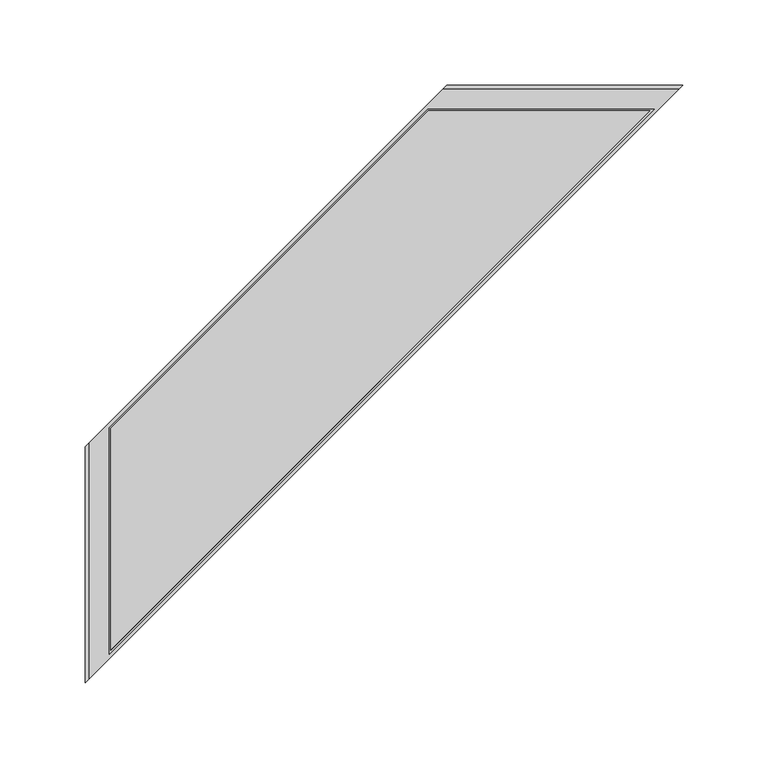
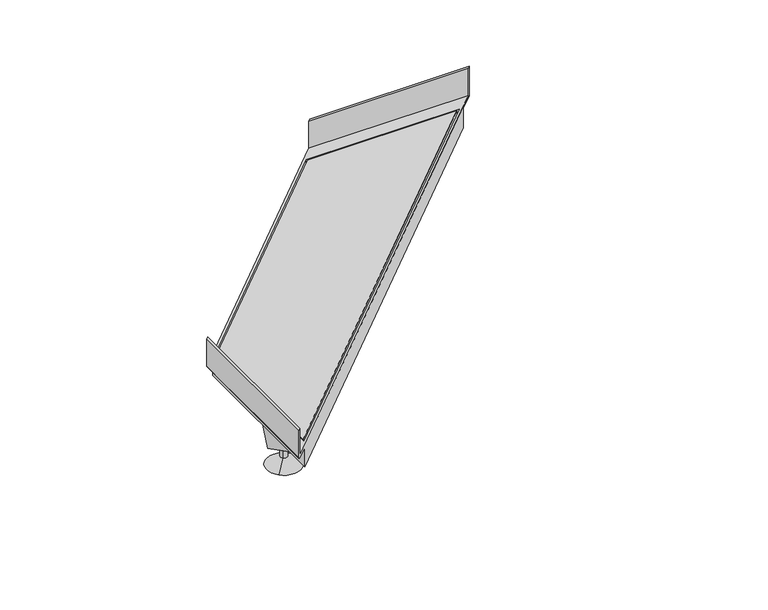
"""IFC4 building model written with IfcOpenShell, lengths in millimetres: sanitary terminal geometry, NLRS_PF_52_UN_Multi Trapezium uitloop_Easydrain : Multi Trapezium horizontal outlet low 40mm."""

import ifcopenshell
import ifcopenshell.guid

model = None  # the IFC model being written
_history = None  # IfcOwnerHistory: only IFC2X3 demands one
_inside = {}  # id of a spatial element -> (the spatial element, [elements in it])
_under = {}  # id of a project, library or spatial element -> (it, [spatial elements below it])
_declared = {}  # id of a project -> (the project, [libraries it declares])
_typed = {}  # id of a type object -> (the type object, [elements of that type])
_made_of = {}  # id of a material, layer set ... -> (it, [elements and type objects made of it])


def new_model(schema):
    """Start an empty IFC model of exactly this schema.

    Asked for "IFC4X3", IfcOpenShell would pick the latest addendum, in which some entities
    have other attributes; the version numbers below select the first issue.
    IFC2X3 requires an IfcOwnerHistory on every rooted entity: one is made here for all.
    """
    global model, _history
    if schema == "IFC4X3":
        model = ifcopenshell.file(schema_version=(4, 3, 0, 0))
    else:
        model = ifcopenshell.file(schema=schema)
    _inside.clear()
    _under.clear()
    _declared.clear()
    _typed.clear()
    _made_of.clear()
    _history = None
    if model.schema == "IFC2X3":
        org = make("IfcOrganization", Name="unknown")
        user = make(
            "IfcPersonAndOrganization",
            ThePerson=make("IfcPerson", FamilyName="unknown"),
            TheOrganization=org,
        )
        app = make(
            "IfcApplication",
            ApplicationDeveloper=org,
            Version="unknown",
            ApplicationFullName="unknown",
            ApplicationIdentifier="unknown",
        )
        _history = make(
            "IfcOwnerHistory",
            OwningUser=user,
            OwningApplication=app,
            ChangeAction="ADDED",
            CreationDate=0,
        )
    return model


def make(cls, **values):
    """One entity of the class cls with the attributes given. An attribute that is None is left unset."""
    return model.create_entity(
        cls, **{name: value for name, value in values.items() if value is not None}
    )


def rooted(cls, **values):
    """An entity with a GlobalId (a new one), such as an element, a storey or a relation."""
    return make(cls, GlobalId=ifcopenshell.guid.new(), OwnerHistory=_history, **values)


def si_unit(unit_type, name, prefix=None):
    """IfcSIUnit, for example si_unit("LENGTHUNIT", "METRE", prefix="MILLI")."""
    return make("IfcSIUnit", UnitType=unit_type, Prefix=prefix, Name=name)


def assignment(units):
    """IfcUnitAssignment: the units of a project."""
    return None if units is None else make("IfcUnitAssignment", Units=units)


def point(xyz):
    """IfcCartesianPoint."""
    return None if xyz is None else make("IfcCartesianPoint", Coordinates=xyz)


def direction(xyz):
    """IfcDirection."""
    return None if xyz is None else make("IfcDirection", DirectionRatios=xyz)


def frame(location, z_axis=None, x_axis=None):
    """IfcAxis2Placement3D, a coordinate frame: its origin and axes. An axis left out is left unset."""
    return make(
        "IfcAxis2Placement3D",
        Location=point(location),
        Axis=direction(z_axis),
        RefDirection=direction(x_axis),
    )


def origin():
    """The frame at (0, 0, 0) with its axes left unset."""
    return frame((0.0, 0.0, 0.0))


def place(relative_to, where):
    """IfcLocalPlacement: puts the frame where relative to a parent placement (None: the world)."""
    return make(
        "IfcLocalPlacement", PlacementRelTo=relative_to, RelativePlacement=where
    )


def context(
    kind, dimensions, precision=None, world=None, true_north=None, identifier=None
):
    """IfcGeometricRepresentationContext, for example the 3D "Model" context."""
    return make(
        "IfcGeometricRepresentationContext",
        ContextIdentifier=identifier,
        ContextType=kind,
        CoordinateSpaceDimension=dimensions,
        Precision=precision,
        WorldCoordinateSystem=world,
        TrueNorth=true_north,
    )


def project(units=None, contexts=None):
    """IfcProject with its units and contexts."""
    return rooted(
        "IfcProject",
        Name="project",
        RepresentationContexts=contexts,
        UnitsInContext=assignment(units),
    )


def spatial(cls, under=None, at=None, **own):
    """A site, building, storey or space (cls), placed at a placement, below another one or the project."""
    s = rooted(cls, ObjectPlacement=at, **own)
    if under is not None:
        _under.setdefault(under.id(), (under, []))[1].append(s)
    return s


def polyline(points):
    """IfcPolyline through the points."""
    return make("IfcPolyline", Points=[point(p) for p in points])


def circle_curve(where, radius):
    """IfcCircle in the frame where."""
    return make("IfcCircle", Position=where, Radius=radius)


def ellipse_curve(where, semi_axis1, semi_axis2):
    """IfcEllipse in the frame where."""
    return make(
        "IfcEllipse", Position=where, SemiAxis1=semi_axis1, SemiAxis2=semi_axis2
    )


def faces_of(points, faces, orient=None, outer=None):
    """IfcFace entities. A face is a list of loops; a loop is a list of indices into points, from 0.

    orient and outer hold one flag for each loop. By default every Orientation is true, the
    first loop of a face is its IfcFaceOuterBound and the others are IfcFaceBound.
    """
    made = []
    for i, loops in enumerate(faces):
        bounds = []
        for j, loop in enumerate(loops):
            is_outer = j == 0 if outer is None else outer[i][j]
            bounds.append(
                make(
                    "IfcFaceOuterBound" if is_outer else "IfcFaceBound",
                    Bound=make("IfcPolyLoop", Polygon=[points[k] for k in loop]),
                    Orientation=True if orient is None else orient[i][j],
                )
            )
        made.append(make("IfcFace", Bounds=bounds))
    return made


def faceted_brep(points, faces, orient=None, outer=None, voids=None):
    """IfcFacetedBrep: a solid bounded by flat faces; with voids (closed shells), ...WithVoids."""
    shared = [point(p) for p in points]
    hull = make("IfcClosedShell", CfsFaces=faces_of(shared, faces, orient, outer))
    if voids is None:
        return make("IfcFacetedBrep", Outer=hull)
    return make(
        "IfcFacetedBrepWithVoids",
        Outer=hull,
        Voids=[
            make(cls, CfsFaces=faces_of(shared, fs, o, b)) for cls, fs, o, b in voids
        ],
    )


def shape(context_of_items, identifier, shape_type, items):
    """IfcShapeRepresentation: the items that make up one representation, for example the "Body"."""
    return make(
        "IfcShapeRepresentation",
        ContextOfItems=context_of_items,
        RepresentationIdentifier=identifier,
        RepresentationType=shape_type,
        Items=items,
    )


def source(mapping_origin, context_of_items, identifier, shape_type, items):
    """IfcRepresentationMap: a shape defined once, which mapped items show again and again."""
    return make(
        "IfcRepresentationMap",
        MappingOrigin=mapping_origin,
        MappedRepresentation=shape(context_of_items, identifier, shape_type, items),
    )


def transform(
    local_origin,
    x_axis=None,
    y_axis=None,
    z_axis=None,
    scale=None,
    scale2=None,
    scale3=None,
    uniform=True,
):
    """IfcCartesianTransformationOperator3D, or its non-uniform kind. x_axis, y_axis, z_axis: its Axis1, 2, 3."""
    if uniform:
        return make(
            "IfcCartesianTransformationOperator3D",
            Axis1=direction(x_axis),
            Axis2=direction(y_axis),
            LocalOrigin=point(local_origin),
            Scale=scale,
            Axis3=direction(z_axis),
        )
    return make(
        "IfcCartesianTransformationOperator3DnonUniform",
        Axis1=direction(x_axis),
        Axis2=direction(y_axis),
        LocalOrigin=point(local_origin),
        Scale=scale,
        Axis3=direction(z_axis),
        Scale2=scale2,
        Scale3=scale3,
    )


def mapped(mapping_source, mapping_target):
    """IfcMappedItem: shows the shape of a source again, moved by a transform."""
    return make(
        "IfcMappedItem", MappingSource=mapping_source, MappingTarget=mapping_target
    )


def made_of(thing, what):
    """Note that an element or type object is made of a material, layer set ...; save() writes the relation."""
    if what is not None:
        _made_of.setdefault(what.id(), (what, []))[1].append(thing)
    return thing


def element(
    cls,
    number,
    at=None,
    inside=None,
    cuts=None,
    type_object=None,
    material=None,
    context=None,
    identifier="Body",
    shape_type=None,
    held_by="IfcProductDefinitionShape",
    body=None,
    shapes=None,
    **own,
):
    """One element of the class cls, such as IfcWall. Its Tag is "e" and its number.

    at: its placement. inside: the storey or other place that contains it. cuts: it is an
    opening in that element (IfcRelVoidsElement). A single representation is given by context,
    identifier, shape_type and body (its items); several are given by shapes. held_by: the class
    of the entity that holds the representations. save() writes the other relations.
    """
    e = rooted(cls, Tag="e%d" % number, ObjectPlacement=at, **own)
    if body is not None:
        shapes = [shape(context, identifier, shape_type, body)]
    if shapes is not None:
        e.Representation = make(held_by, Representations=shapes)
    if inside is not None:
        _inside.setdefault(inside.id(), (inside, []))[1].append(e)
    if cuts is not None:
        rooted(
            "IfcRelVoidsElement", RelatingBuildingElement=cuts, RelatedOpeningElement=e
        )
    if type_object is not None:
        _typed.setdefault(type_object.id(), (type_object, []))[1].append(e)
    return made_of(e, material)


def aggregate(whole, parts):
    """IfcRelAggregates: a whole, such as a stair, and the parts it consists of."""
    return rooted("IfcRelAggregates", RelatingObject=whole, RelatedObjects=parts)


def save(model, path):
    """Write the relations noted so far, then the file.

    IfcRelAggregates (storeys below a building ...), IfcRelContainedInSpatialStructure (elements
    in a storey), IfcRelDefinesByType, IfcRelAssociatesMaterial and IfcRelDeclares: one each for
    every whole, place, type object, material and project.
    """
    for whole, parts in _under.values():
        aggregate(whole, parts)
    for where, things in _inside.values():
        rooted(
            "IfcRelContainedInSpatialStructure",
            RelatedElements=things,
            RelatingStructure=where,
        )
    for kind, things in _typed.values():
        rooted("IfcRelDefinesByType", RelatedObjects=things, RelatingType=kind)
    for what, things in _made_of.values():
        rooted("IfcRelAssociatesMaterial", RelatedObjects=things, RelatingMaterial=what)
    for by, libraries in _declared.values():
        rooted("IfcRelDeclares", RelatingContext=by, RelatedDefinitions=libraries)
    model.write(path)


def plane_surface(at):
    """IfcPlane: the flat surface through the origin of the frame at, square to its z axis."""
    return make("IfcPlane", Position=at)


def cylinder_surface(at, radius):
    """IfcCylindricalSurface: all points at the distance radius from the z axis of the frame at."""
    return make("IfcCylindricalSurface", Position=at, Radius=radius)


def revolved_surface(curve, axis_point, axis_direction):
    """IfcSurfaceOfRevolution: the curve turned about the line through axis_point along axis_direction."""
    return make(
        "IfcSurfaceOfRevolution",
        SweptCurve=make("IfcArbitraryOpenProfileDef", ProfileType="CURVE", Curve=curve),
        AxisPosition=make("IfcAxis1Placement", Location=point(axis_point), Axis=direction(axis_direction)),
    )


def advanced_brep(points, edges, surfaces, faces):
    """IfcAdvancedBrep: a solid bounded by faces that lie on surfaces and meet in shared edges.

    An edge is (start, end): straight between two places in points (the first is 0);
    or (start, end, curve); or (start, end, curve, False) where it runs against its curve.
    A face is (place in surfaces, loops), or (place, loops, False) where it looks against
    its surface's normal. A loop lists edges by number (the first is 1), with a minus sign
    where the edge is run from its end to its start. The first loop is the outer one.
    """
    corners = [point(p) for p in points]
    vertices = [make("IfcVertexPoint", VertexGeometry=c) for c in corners]
    made = []
    for start, end, *more in edges:
        made.append(
            make(
                "IfcEdgeCurve",
                EdgeStart=vertices[start],
                EdgeEnd=vertices[end],
                EdgeGeometry=more[0] if more else make("IfcPolyline", Points=[corners[start], corners[end]]),
                SameSense=more[1] if len(more) > 1 else True,
            )
        )
    hull = []
    for where, loops, *sense in faces:
        bounds = []
        for j, loop in enumerate(loops):
            ring = [make("IfcOrientedEdge", EdgeElement=made[abs(k) - 1], Orientation=k > 0) for k in loop]
            bounds.append(
                make(
                    "IfcFaceOuterBound" if j == 0 else "IfcFaceBound",
                    Bound=make("IfcEdgeLoop", EdgeList=ring),
                    Orientation=True,
                )
            )
        hull.append(make("IfcAdvancedFace", Bounds=bounds, FaceSurface=surfaces[where], SameSense=sense[0] if sense else True))
    return make("IfcAdvancedBrep", Outer=make("IfcClosedShell", CfsFaces=hull))


def sanitary_terminal_3431c1f4(model_context):
    return source(origin(), model_context, "Body", "SolidModel", [
        advanced_brep(
        [(252.4371209, -44.5477272, -60.0), (254.5584412, -42.4264069, -60.0), (256.6797616, -40.3050865, -60.0), (252.4371209, -44.5477272, -71.5), (256.6797616, -40.3050865, -71.5), (243.9518395, -53.0330086, -79.0), (265.1650429, -31.8198052, -79.0), (254.5584412, -42.4264069, -79.0)],
        [
            (0, 1),
            (1, 2),
            (2, 0, circle_curve(frame((254.5584412, -42.4264069, -60.0), z_axis=(0.0, 0.0, 1.0), x_axis=(0.7071067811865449, 0.70710678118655, 0.0)), 3.0)),
            (0, 2, circle_curve(frame((254.5584412, -42.4264069, -60.0), z_axis=(0.0, 0.0, 1.0), x_axis=(0.7071067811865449, 0.70710678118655, 0.0)), 3.0)),
            (3, 0),
            (2, 4),
            (4, 3, circle_curve(frame((254.5584412, -42.4264069, -71.5), z_axis=(0.0, 0.0, 1.0), x_axis=(0.7071067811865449, 0.70710678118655, 0.0)), 3.0)),
            (3, 4, circle_curve(frame((254.5584412, -42.4264069, -71.5), z_axis=(0.0, 0.0, 1.0), x_axis=(0.7071067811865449, 0.70710678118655, 0.0)), 3.0)),
            (5, 3),
            (4, 6),
            (6, 5, circle_curve(frame((254.5584412, -42.4264069, -79.0), z_axis=(0.0, 0.0, 1.0), x_axis=(0.7071067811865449, 0.70710678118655, 0.0)), 15.0)),
            (5, 6, circle_curve(frame((254.5584412, -42.4264069, -79.0), z_axis=(0.0, 0.0, 1.0), x_axis=(0.7071067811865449, 0.70710678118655, 0.0)), 15.0)),
            (7, 5),
            (6, 7),
        ],
        [
            plane_surface(frame((254.5584412, -42.4264069, -60.0), z_axis=(0.0, 0.0, 1.0), x_axis=(0.707106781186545, 0.7071067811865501, 0.0))),
            cylinder_surface(frame((254.5584412, -42.4264069, -87.1782032), z_axis=(0.0, 0.0, -1.0), x_axis=(0.7071067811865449, 0.70710678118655, 0.0)), 3.0),
            revolved_surface(polyline([(256.6797616, -40.3050865, -71.5), (265.1650429, -31.8198052, -79.0)]), (254.5584412, -42.4264069, -87.1782032), (0.0, 0.0, -1.0)),
            plane_surface(frame((254.5584412, -42.4264069, -79.0), z_axis=(0.0, 0.0, -1.0), x_axis=(0.707106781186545, 0.7071067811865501, 0.0))),
        ],
        [
            (0, [[1, 2, 3]]),
            (0, [[-2, -1, 4]]),
            (1, [[5, -3, 6, 7]]),
            (1, [[-6, -4, -5, 8]]),
            (2, [[9, -7, 10, 11]]),
            (2, [[-10, -8, -9, 12]]),
            (3, [[13, -11, 14]]),
            (3, [[-14, -12, -13]]),
        ],
    ),
        faceted_brep([(254.5584412, -28.2842712, -60.0), (268.7005769, -42.4264069, -60.0), (254.5584412, -56.5685425, -60.0), (240.4163056, -42.4264069, -60.0), (254.5584412, -21.2132034, -20.0), (233.3452378, -42.4264069, -20.0), (254.5584412, -63.6396103, -20.0), (275.7716447, -42.4264069, -20.0)], [[[0, 1, 2, 3]], [[4, 5, 6, 7]], [[7, 1, 0, 4]], [[6, 2, 1, 7]], [[5, 3, 2, 6]], [[4, 0, 3, 5]]]),
        advanced_brep(
        [(44.5477272, -252.4371209, -60.0), (40.3050865, -256.6797616, -60.0), (42.4264069, -254.5584412, -60.0), (44.5477272, -252.4371209, -71.5), (40.3050865, -256.6797616, -71.5), (53.0330086, -243.9518395, -79.0), (31.8198052, -265.1650429, -79.0), (42.4264069, -254.5584412, -79.0)],
        [
            (0, 1, circle_curve(frame((42.4264069, -254.5584412, -60.0), z_axis=(0.0, 0.0, 1.0), x_axis=(-0.7071067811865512, -0.7071067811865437, 0.0)), 3.0)),
            (1, 2),
            (2, 0),
            (1, 0, circle_curve(frame((42.4264069, -254.5584412, -60.0), z_axis=(0.0, 0.0, 1.0), x_axis=(-0.7071067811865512, -0.7071067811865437, 0.0)), 3.0)),
            (3, 4, circle_curve(frame((42.4264069, -254.5584412, -71.5), z_axis=(0.0, 0.0, 1.0), x_axis=(-0.7071067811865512, -0.7071067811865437, 0.0)), 3.0)),
            (4, 1),
            (0, 3),
            (4, 3, circle_curve(frame((42.4264069, -254.5584412, -71.5), z_axis=(0.0, 0.0, 1.0), x_axis=(-0.7071067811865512, -0.7071067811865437, 0.0)), 3.0)),
            (5, 6, circle_curve(frame((42.4264069, -254.5584412, -79.0), z_axis=(0.0, 0.0, 1.0), x_axis=(-0.7071067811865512, -0.7071067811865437, 0.0)), 15.0)),
            (6, 4),
            (3, 5),
            (6, 5, circle_curve(frame((42.4264069, -254.5584412, -79.0), z_axis=(0.0, 0.0, 1.0), x_axis=(-0.7071067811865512, -0.7071067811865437, 0.0)), 15.0)),
            (7, 6),
            (5, 7),
        ],
        [
            plane_surface(frame((42.4264069, -254.5584412, -60.0), z_axis=(0.0, 0.0, 1.0000000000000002), x_axis=(-0.7071067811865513, -0.7071067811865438, 0.0))),
            cylinder_surface(frame((42.4264069, -254.5584412, -87.1782032), z_axis=(0.0, 0.0, -1.0), x_axis=(-0.7071067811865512, -0.7071067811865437, 0.0)), 3.0),
            revolved_surface(polyline([(40.3050865, -256.6797616, -71.5), (31.8198052, -265.1650429, -79.0)]), (42.4264069, -254.5584412, -87.1782032), (0.0, 0.0, -1.0)),
            plane_surface(frame((42.4264069, -254.5584412, -79.0), z_axis=(0.0, 0.0, -1.0000000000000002), x_axis=(-0.7071067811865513, -0.7071067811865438, 0.0))),
        ],
        [
            (0, [[1, 2, 3]]),
            (0, [[4, -3, -2]]),
            (1, [[5, 6, -1, 7]]),
            (1, [[8, -7, -4, -6]]),
            (2, [[9, 10, -5, 11]]),
            (2, [[12, -11, -8, -10]]),
            (3, [[13, -9, 14]]),
            (3, [[-14, -12, -13]]),
        ],
    ),
        faceted_brep([(28.2842712, -254.5584412, -60.0), (42.4264069, -240.4163056, -60.0), (56.5685425, -254.5584412, -60.0), (42.4264069, -268.7005769, -60.0), (21.2132034, -254.5584412, -20.0), (42.4264069, -275.7716447, -20.0), (63.6396103, -254.5584412, -20.0), (42.4264069, -233.3452378, -20.0)], [[[0, 1, 2, 3]], [[4, 5, 6, 7]], [[5, 4, 0, 3]], [[6, 5, 3, 2]], [[7, 6, 2, 1]], [[4, 7, 1, 0]]]),
        advanced_brep(
        [(0.0, -212.1320344, 25.0), (0.0, -350.7249635, 25.0), (2.0, -348.7249635, 25.0), (2.0, -210.1320344, 25.0), (350.7249635, 0.0, 25.0), (212.1320344, 0.0, 25.0), (210.1320344, -2.0, 25.0), (348.7249635, -2.0, 25.0), (12.0, -338.7249635, -20.0), (12.0, -200.1320344, -20.0), (200.1320344, -12.0, -20.0), (338.7249635, -12.0, -20.0), (2.0, -210.1320344, 0.0), (210.1320344, -2.0, 0.0), (212.1320344, 0.0, -2.0), (200.1320344, -12.0, -2.0), (12.0, -200.1320344, -2.0), (2.0, -210.1320344, -2.0), (0.0, -212.1320344, 0.0), (0.0, -350.7249635, 0.0), (2.0, -348.7249635, -2.0), (12.0, -338.7249635, -2.0), (338.7249635, -12.0, -2.0), (350.7249635, 0.0, -2.0), (348.7249635, -2.0, 0.0), (2.0, -348.7249635, 0.0), (14.0, -333.8965363, 0.0), (14.0, -200.9604615, 0.0), (200.9604615, -14.0, 0.0), (333.8965363, -14.0, 0.0), (15.0, -201.374675, 0.0), (15.0, -331.4823228, 0.0), (331.4823228, -15.0, 0.0), (201.374675, -15.0, 0.0), (14.0, -333.8965363, -12.0), (14.0, -200.9604615, -12.0), (15.0, -201.374675, -12.0), (15.0, -331.4823228, -12.0), (333.8965363, -14.0, -12.0), (331.4823228, -15.0, -12.0), (200.9604615, -14.0, -12.0), (201.374675, -15.0, -12.0)],
        [
            (0, 1),
            (1, 2),
            (2, 3),
            (3, 0),
            (4, 5),
            (5, 6),
            (6, 7),
            (7, 4),
            (8, 9),
            (9, 10),
            (10, 11),
            (11, 8),
            (3, 12),
            (12, 13),
            (13, 6),
            (5, 14),
            (14, 15),
            (15, 10),
            (9, 16),
            (16, 17),
            (17, 18, ellipse_curve(frame((2.0, -210.1320344, 0.0), z_axis=(-0.707106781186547, 0.7071067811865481, 0.0), x_axis=(0.7071067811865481, 0.7071067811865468, 0.0)), 2.8284271, 2.0)),
            (18, 0),
            (18, 19),
            (19, 1),
            (19, 20, ellipse_curve(frame((2.0, -348.7249635, 0.0), z_axis=(0.707106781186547, -0.7071067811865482, 0.0), x_axis=(0.7071067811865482, 0.7071067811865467, 0.0)), 2.8284271, 2.0)),
            (20, 21),
            (21, 8),
            (11, 22),
            (22, 23),
            (23, 4),
            (7, 24),
            (24, 25),
            (25, 2),
            (23, 14),
            (12, 25),
            (24, 13),
            (26, 27),
            (27, 28),
            (28, 29),
            (29, 26),
            (30, 31),
            (31, 32),
            (32, 33),
            (33, 30),
            (16, 21),
            (20, 17),
            (22, 15),
            (26, 34),
            (34, 35),
            (35, 27),
            (36, 37),
            (37, 31),
            (30, 36),
            (29, 38),
            (38, 34),
            (37, 39),
            (39, 32),
            (28, 40),
            (40, 38),
            (39, 41),
            (41, 33),
            (35, 40),
            (41, 36),
        ],
        [
            plane_surface(frame((0.0, -212.1320344, 25.0), z_axis=(0.0, 0.0, 1.0000000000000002), x_axis=(-0.7071067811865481, -0.707106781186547, 0.0))),
            plane_surface(frame((0.0, -212.1320344, -20.0), z_axis=(0.0, 0.0, -1.0000000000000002), x_axis=(0.7071067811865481, 0.707106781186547, 0.0))),
            plane_surface(frame((212.1320344, 0.0, 25.0), z_axis=(-0.707106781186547, 0.7071067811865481, 0.0), x_axis=(0.0, 0.0, -1.0))),
            plane_surface(frame((0.0, -212.1320344, 25.0), z_axis=(-1.0, 0.0, 0.0), x_axis=(0.0, 0.0, -1.0))),
            plane_surface(frame((0.0, -350.7249635, 25.0), z_axis=(0.707106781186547, -0.7071067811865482, 0.0), x_axis=(0.0, 0.0, -1.0))),
            plane_surface(frame((350.7249635, 0.0, 25.0), z_axis=(0.0, 1.0, 0.0), x_axis=(0.0, 0.0, -1.0))),
            plane_surface(frame((2.0, -210.1320344, 0.0), z_axis=(0.0, 0.0, 1.0), x_axis=(0.0, 1.0, 0.0))),
            plane_surface(frame((2.0, -210.1320344, 25.0), z_axis=(1.0, 0.0, 0.0), x_axis=(0.0, 0.0, -1.0))),
            plane_surface(frame((348.7249635, -2.0, 25.0), z_axis=(0.0, -1.0, 0.0), x_axis=(0.0, 0.0, -1.0))),
            plane_surface(frame((12.0, -712.5909744, -2.0), z_axis=(0.0, 0.0, -1.0), x_axis=(0.0, 1.0, 0.0))),
            plane_surface(frame((12.0, -712.5909744, -20.0), z_axis=(-1.0, 0.0, 0.0), x_axis=(0.0, 1.0, 0.0))),
            plane_surface(frame((712.5909744, 0.0, -2.0), z_axis=(0.0, 0.0, -1.0), x_axis=(-1.0, 0.0, 0.0))),
            plane_surface(frame((712.5909744, -12.0, -2.0), z_axis=(0.0, 1.0, 0.0), x_axis=(-1.0, 0.0, 0.0))),
            plane_surface(frame((14.0, -200.9604615, -12.0), z_axis=(1.0, 0.0, 0.0), x_axis=(0.0, -1.0, 0.0))),
            plane_surface(frame((15.0, -201.374675, 0.0), z_axis=(-1.0, 0.0, 0.0), x_axis=(0.0, -1.0, 0.0))),
            plane_surface(frame((14.0, -333.8965363, -12.0), z_axis=(-0.707106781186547, 0.7071067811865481, 0.0), x_axis=(0.7071067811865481, 0.707106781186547, 0.0))),
            plane_surface(frame((15.0, -331.4823228, 0.0), z_axis=(0.707106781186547, -0.7071067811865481, 0.0), x_axis=(0.7071067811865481, 0.707106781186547, 0.0))),
            plane_surface(frame((333.8965363, -14.0, -12.0), z_axis=(0.0, -1.0, 0.0), x_axis=(-1.0, 0.0, 0.0))),
            plane_surface(frame((331.4823228, -15.0, 0.0), z_axis=(0.0, 1.0, 0.0), x_axis=(-1.0, 0.0, 0.0))),
            plane_surface(frame((200.9604615, -14.0, -12.0), z_axis=(0.7071067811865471, -0.7071067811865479, 0.0), x_axis=(-0.7071067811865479, -0.7071067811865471, 0.0))),
            plane_surface(frame((201.374675, -15.0, 0.0), z_axis=(-0.7071067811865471, 0.707106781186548, 0.0), x_axis=(-0.707106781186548, -0.7071067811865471, 0.0))),
            plane_surface(frame((201.374675, -15.0, -12.0), z_axis=(0.0, 0.0, 1.0), x_axis=(-0.707106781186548, -0.707106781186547, 0.0))),
            cylinder_surface(frame((2.0, 0.0, 0.0), z_axis=(0.0, 1.0, 0.0), x_axis=(1.0, 0.0, 0.0)), 2.0),
        ],
        [
            (0, [[1, 2, 3, 4]]),
            (0, [[5, 6, 7, 8]]),
            (1, [[9, 10, 11, 12]]),
            (2, [[-4, 13, 14, 15, -6, 16, 17, 18, -10, 19, 20, 21, 22]]),
            (3, [[-1, -22, 23, 24]]),
            (4, [[-2, -24, 25, 26, 27, -12, 28, 29, 30, -8, 31, 32, 33]]),
            (5, [[-5, -30, 34, -16]]),
            (6, [[35, -32, 36, -14], [37, 38, 39, 40]]),
            (6, [[41, 42, 43, 44]]),
            (7, [[-35, -13, -3, -33]]),
            (8, [[-36, -31, -7, -15]]),
            (9, [[45, -26, 46, -20]]),
            (10, [[-45, -19, -9, -27]]),
            (11, [[47, -17, -34, -29]]),
            (12, [[-47, -28, -11, -18]]),
            (13, [[48, 49, 50, -37]]),
            (14, [[51, 52, -41, 53]]),
            (15, [[-48, -40, 54, 55]]),
            (16, [[-52, 56, 57, -42]]),
            (17, [[-54, -39, 58, 59]]),
            (18, [[-57, 60, 61, -43]]),
            (19, [[-50, 62, -58, -38]]),
            (20, [[-53, -44, -61, 63]]),
            (21, [[-49, -55, -59, -62], [-51, -63, -60, -56]]),
            (22, [[-46, -25, -23, -21]]),
        ],
    ),
    ])


if __name__ == "__main__":
    model = new_model("IFC4")
    model_context = context("Model", 3, world=origin())
    ifc_project = project(units=[si_unit("LENGTHUNIT", "METRE", prefix="MILLI")], contexts=[model_context])
    site = spatial("IfcSite", under=ifc_project)
    building = spatial("IfcBuilding", under=site)
    placement = place(None, origin())
    sanitary_terminal_shape = sanitary_terminal_3431c1f4(model_context)
    element("IfcSanitaryTerminal", 1, ObjectType="NLRS_PF_52_UN_Multi Trapezium uitloop_Easydrain : Multi Trapezium horizontal outlet low 40mm", at=placement, inside=building, context=model_context, shape_type="MappedRepresentation", body=[
        mapped(sanitary_terminal_shape, transform((0.0, 0.0, 0.0), x_axis=(1.0, 0.0, 0.0), y_axis=(0.0, 1.0, 0.0), z_axis=(0.0, 0.0, 1.0))),
    ])
    save(model, "model.ifc")
